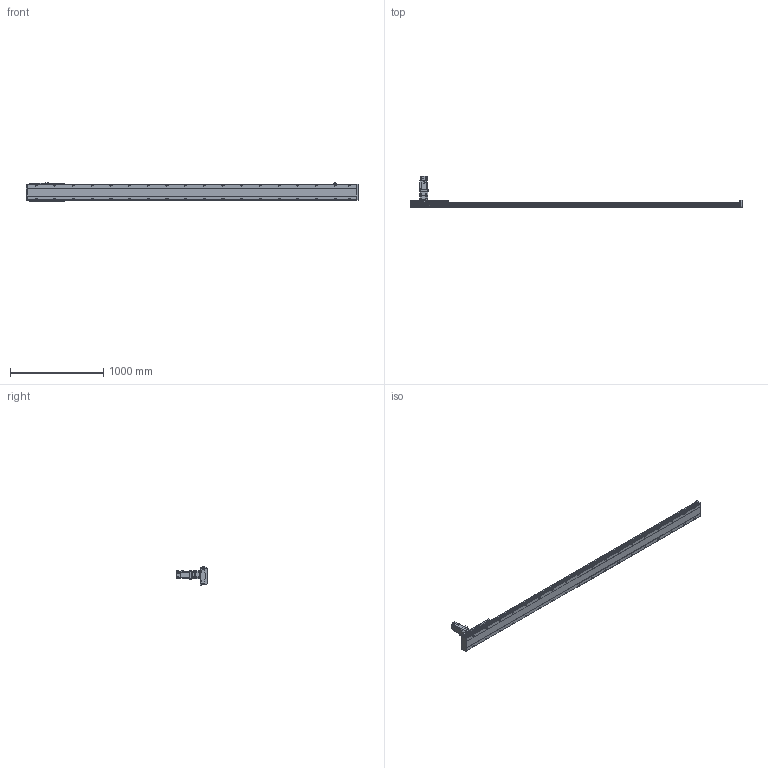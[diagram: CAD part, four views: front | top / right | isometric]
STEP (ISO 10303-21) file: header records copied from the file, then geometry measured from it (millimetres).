
FILE_DESCRIPTION(/* description */ ('STEP AP203'),/* implementation_level */ '2;1');
FILE_NAME(/* name */ 'SHS17A-L13-S3100-BC-T75-C1-N(0)',/* time_stamp */ '2023-03-27T08:58:31+02:00',/* author */ ('License CC BY-ND 4.0'),/* organization */ ('CADENAS'),/* preprocessor_version */ 'ST-DEVELOPER v19.3',/* originating_system */ 'PARTsolutions',/* authorisation */ ' ');
FILE_SCHEMA (('CONFIG_CONTROL_DESIGN'));
Length unit declared in the file: millimetre
Products named in the file (7): SHS17A-L13-S3100-BC-T75-C1-N(0); PSC140-sensor; SHS17A-S3100(0)_body2; T75-p1; SHS17A-S3100_body3; SHS17A-S3100-C1(0)_slider; SHS17A-S3100-C1(0)_body
Assembly tree (13 placements, depth 2):
  SHS17A-L13-S3100-BC-T75-C1-N(0)
    PSC140-sensor  x3
    SHS17A-S3100(0)_body2  x6
    T75-p1
    SHS17A-S3100_body3
    SHS17A-S3100-C1(0)_slider
    SHS17A-S3100-C1(0)_body
Bounding box: 3554 x 333.8 x 193.4 mm (x, y, z)
Volume: 24836303.1 mm3; surface area: 2866446 mm2
Topology: 13 solids, 13 shells, 2232 faces, 5681 edges, 3700 vertices
Faces by surface type: plane 1403, cylinder 736, cone 90, torus 3
Full cylindrical faces by diameter (mm): 2.8 x3, 4.134 x24, 4.5 x2, 4.6 x3, 4.917 x15, 5.5 x48, 6 x7, 6.5 x24, 6.647 x44, 6.8 x9, 8 x3, 8.5 x36, 10 x28, 11 x4, 14 x36, 22 x1, 24 x1, 24.2 x1, 28 x1, 28.2 x1, 28.8 x1, 29.8 x1, 48.542 x1, 68 x1, 70 x1, 78 x1, 80 x2
Entity records: 43752 total; most frequent: CARTESIAN_POINT 8628, DIRECTION 7123, ORIENTED_EDGE 6876, EDGE_CURVE 3438, AXIS2_PLACEMENT_3D 2526, VERTEX_POINT 2419, LINE 2071, VECTOR 2071
